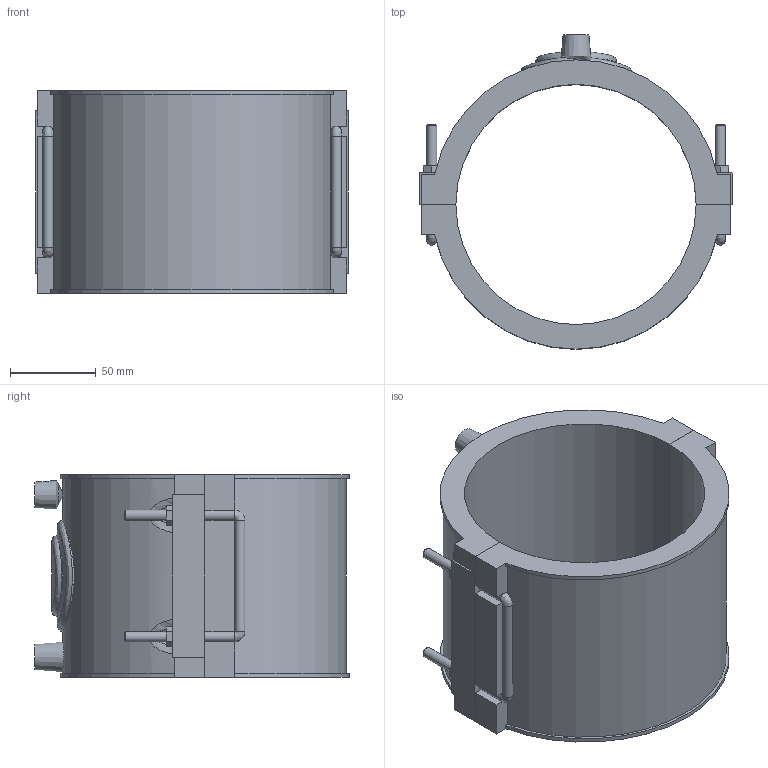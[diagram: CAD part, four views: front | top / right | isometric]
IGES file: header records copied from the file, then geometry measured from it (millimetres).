
Global section: file name: 495204140.ipt; native system: Autodesk Inventor 2015; preprocessor: unknown; author: KIM; date: 20171106.094230; units: millimetre
Bounding box: 182 x 183.25 x 118 mm (x, y, z)
Volume: 814035.5 mm3; surface area: 153263.8 mm2
Topology: 2 solids, 2 shells, 133 faces, 342 edges, 216 vertices
Faces by surface type: plane 84, cylinder 25, bspline 10, revolution 8, cone 6
Full cylindrical faces by diameter (mm): 4 x2, 6 x10
